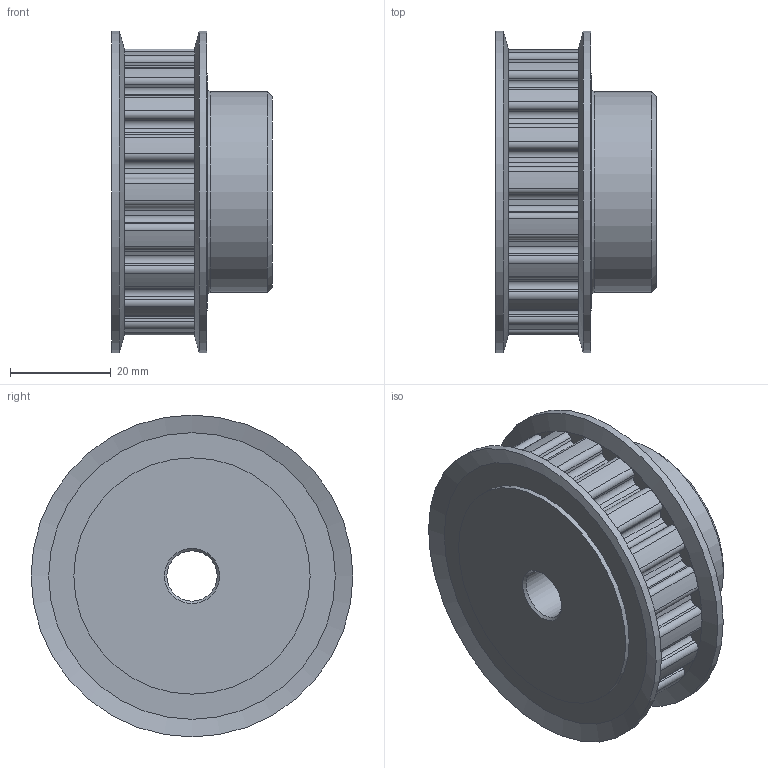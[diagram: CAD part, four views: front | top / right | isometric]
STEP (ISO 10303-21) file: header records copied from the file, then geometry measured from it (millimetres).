
FILE_DESCRIPTION(/* description */ ('PULEGGE 19 L 050 F'),/* implementation_level */ '2;1');
FILE_NAME(/* name */ 'w:\documenti\Disegni dwg\Catalogo\Pulegge\L\050\42050019.stp',/* time_stamp */ '2023-05-09T09:31:21+02:00',/* author */ ('carlo.bersi'),/* organization */ (''),/* preprocessor_version */ 'ST-DEVELOPER v19',/* originating_system */ 'Autodesk Inventor 2023',/* authorisation */ '');
FILE_SCHEMA (('CONFIG_CONTROL_DESIGN'));
Length unit declared in the file: millimetre
Products named in the file (3): 42050019; 42050019_1; 49200059
Assembly tree (3 placements, depth 2):
  42050019
    42050019_1
    49200059  x2
Bounding box: 32 x 64 x 64 mm (x, y, z)
Volume: 59908.7 mm3; surface area: 18144.7 mm2
Topology: 3 solids, 3 shells, 177 faces, 497 edges, 329 vertices
Faces by surface type: cylinder 103, plane 66, cone 7, torus 1
Full cylindrical faces by diameter (mm): 10 x1, 40 x1, 47 x4, 64 x2
Entity records: 5783 total; most frequent: DIRECTION 1051, CARTESIAN_POINT 987, ORIENTED_EDGE 974, EDGE_CURVE 487, AXIS2_PLACEMENT_3D 387, VERTEX_POINT 323, LINE 277, VECTOR 277
